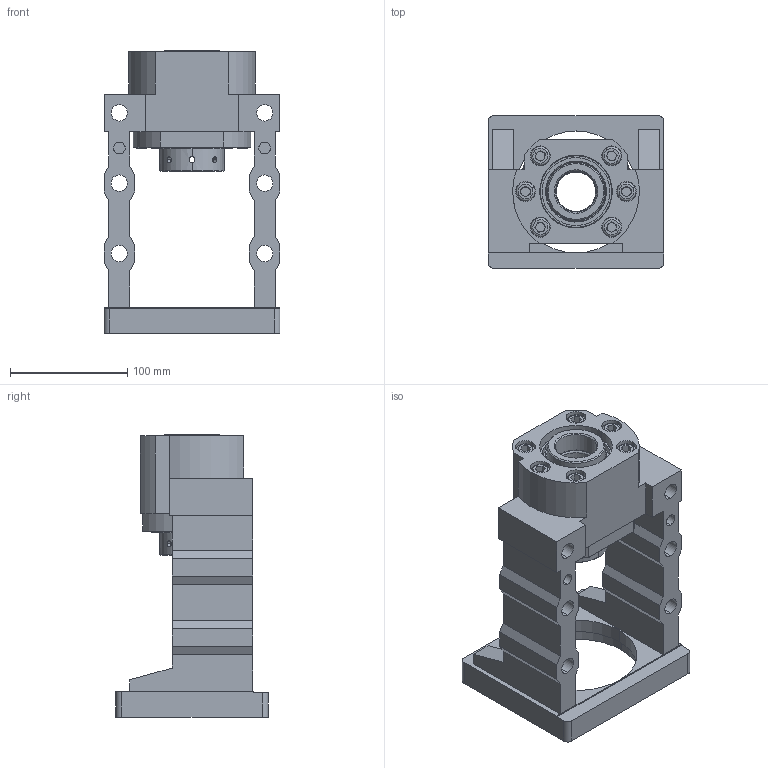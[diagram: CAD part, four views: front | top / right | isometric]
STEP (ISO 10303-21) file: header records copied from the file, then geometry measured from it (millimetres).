
FILE_DESCRIPTION (( 'STEP AP203' ), '1' );
FILE_NAME ('MBCK35-G²Õ¦X¥ó.STEP', '2022-10-20T05:23:31', ( '' ), ( '' ), 'SwSTEP 2.0', 'SolidWorks 2018', '' );
FILE_SCHEMA (( 'CONFIG_CONTROL_DESIGN' ));
Length unit declared in the file: millimetre
Products named in the file (1): MBCK35-G組合件
Bounding box: 150 x 130 x 241 mm (x, y, z)
Surface area: 216544.2 mm2 (no closed solid volume)
Topology: 0 solids, 23 shells, 350 faces, 987 edges, 651 vertices
Faces by surface type: plane 130, cylinder 122, cone 66, torus 20, bspline 12
Entity records: 30469 total; most frequent: CARTESIAN_POINT 21433, DIRECTION 1910, ORIENTED_EDGE 1714, EDGE_CURVE 979, AXIS2_PLACEMENT_3D 722, VERTEX_POINT 651, LINE 466, VECTOR 466
